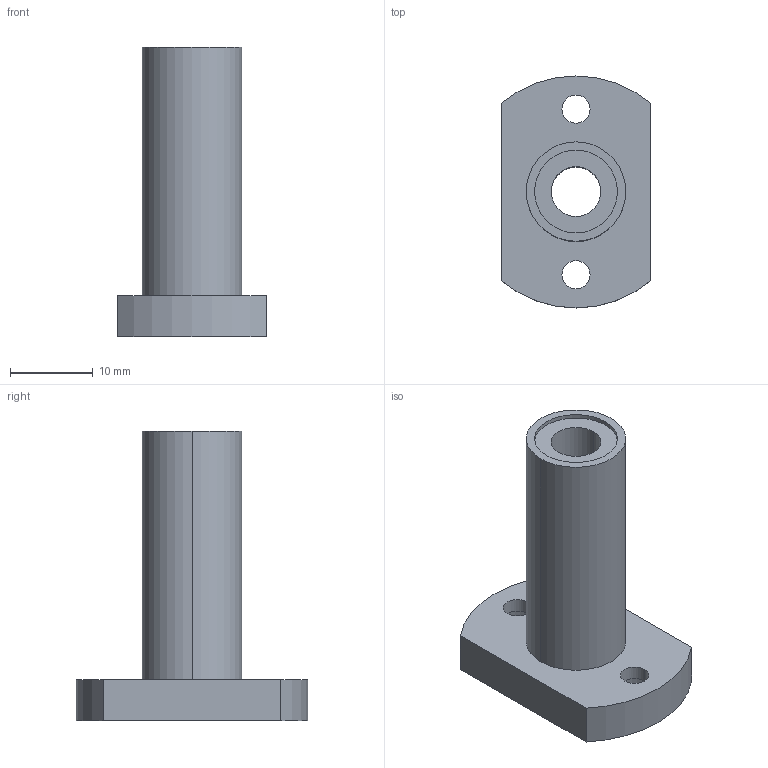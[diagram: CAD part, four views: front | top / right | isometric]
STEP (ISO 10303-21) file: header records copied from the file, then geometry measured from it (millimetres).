
FILE_DESCRIPTION((''),'2;1');
FILE_NAME('C:\Documents and Settings\ｿﾀﾀ蠑ｷ1\ｹﾙﾅﾁ ﾈｭｸ饅\ｺﾎﾇｰﾆﾄﾀﾏ\ﾁｦﾇｰ\LMH__LUU\LMH6LUU.stp','2005-06-15T10:41:37',('ｿﾀﾀ蠑ｷ1'),(''),'Autodesk Inventor 9','Autodesk Inventor 9','');
FILE_SCHEMA(('AUTOMOTIVE_DESIGN { 1 0 10303 214 1 1 1 1 }'));
Length unit declared in the file: millimetre
Products named in the file (1): LMH__
Bounding box: 18 x 28 x 35 mm (x, y, z)
Volume: 4394.4 mm3; surface area: 3234.3 mm2
Topology: 1 solids, 1 shells, 30 faces, 66 edges, 44 vertices
Faces by surface type: cylinder 12, bspline 10, plane 8
Entity records: 989 total; most frequent: CARTESIAN_POINT 283, DIRECTION 148, ORIENTED_EDGE 132, EDGE_CURVE 66, AXIS2_PLACEMENT_3D 61, VERTEX_POINT 44, EDGE_LOOP 42, CIRCLE 40
